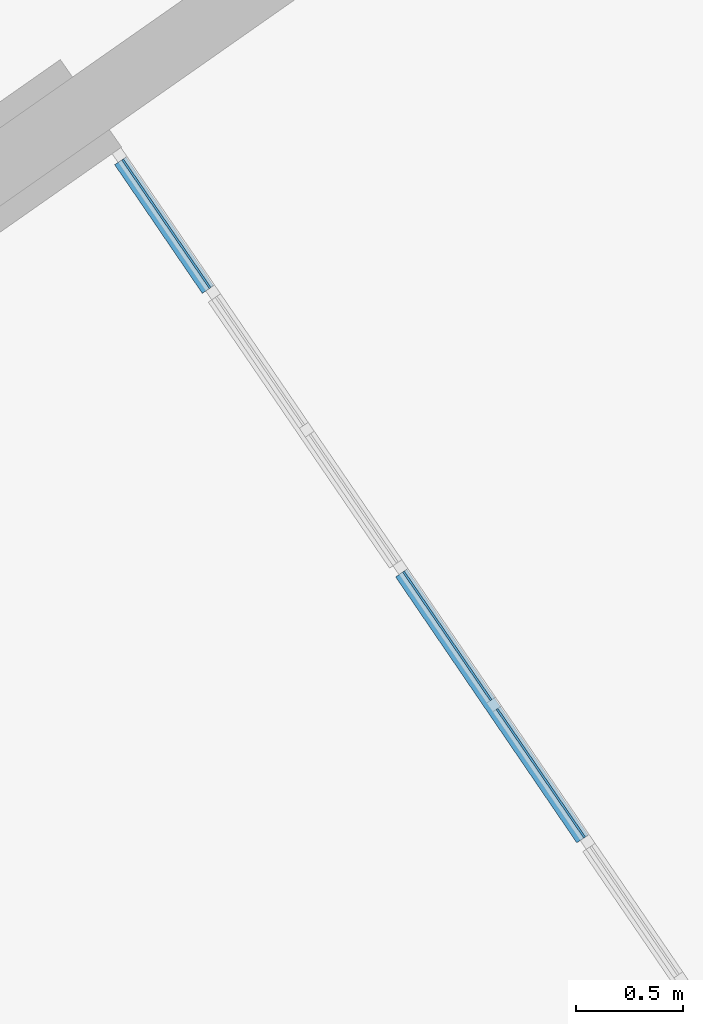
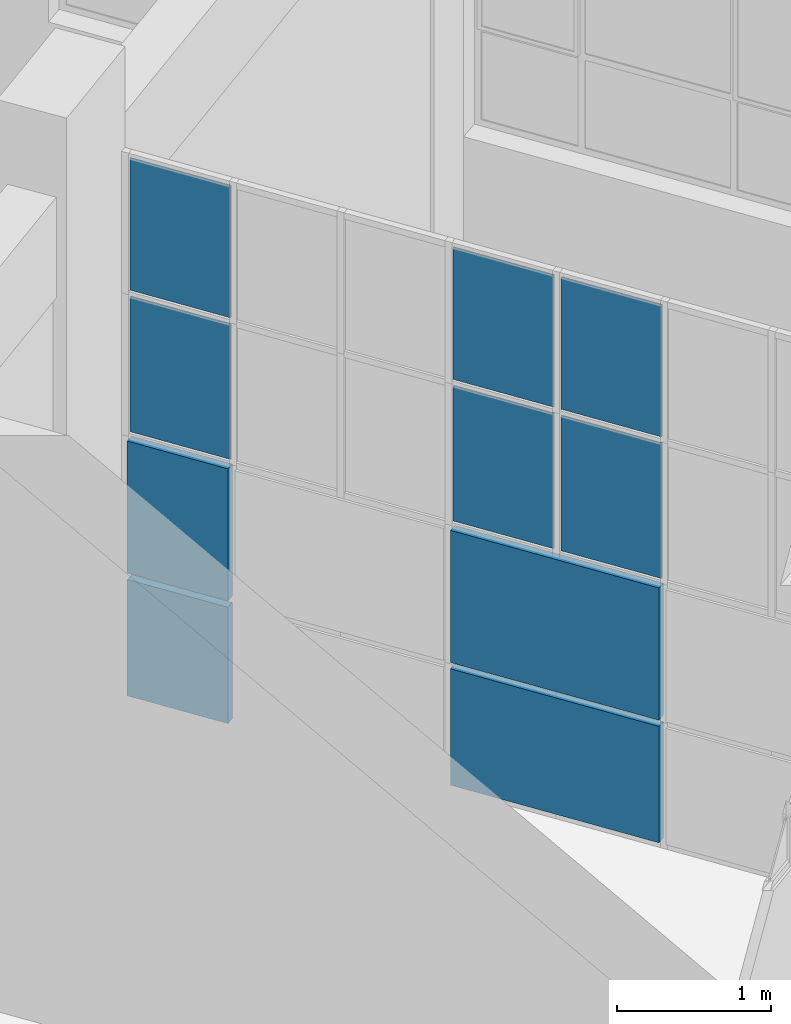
# One storey, part 47 of 157: 10 plates, 1 element without a shape of its own.
"""IFC2X3 building model written with IfcOpenShell, lengths in millimetres."""

import ifcopenshell
import ifcopenshell.guid

model = None  # the IFC model being written
_history = None  # IfcOwnerHistory: only IFC2X3 demands one
_inside = {}  # id of a spatial element -> (the spatial element, [elements in it])
_under = {}  # id of a project, library or spatial element -> (it, [spatial elements below it])
_declared = {}  # id of a project -> (the project, [libraries it declares])
_typed = {}  # id of a type object -> (the type object, [elements of that type])
_made_of = {}  # id of a material, layer set ... -> (it, [elements and type objects made of it])


def new_model(schema):
    """Start an empty IFC model of exactly this schema.

    Asked for "IFC4X3", IfcOpenShell would pick the latest addendum, in which some entities
    have other attributes; the version numbers below select the first issue.
    IFC2X3 requires an IfcOwnerHistory on every rooted entity: one is made here for all.
    """
    global model, _history
    if schema == "IFC4X3":
        model = ifcopenshell.file(schema_version=(4, 3, 0, 0))
    else:
        model = ifcopenshell.file(schema=schema)
    _inside.clear()
    _under.clear()
    _declared.clear()
    _typed.clear()
    _made_of.clear()
    _history = None
    if model.schema == "IFC2X3":
        org = make("IfcOrganization", Name="unknown")
        user = make(
            "IfcPersonAndOrganization",
            ThePerson=make("IfcPerson", FamilyName="unknown"),
            TheOrganization=org,
        )
        app = make(
            "IfcApplication",
            ApplicationDeveloper=org,
            Version="unknown",
            ApplicationFullName="unknown",
            ApplicationIdentifier="unknown",
        )
        _history = make(
            "IfcOwnerHistory",
            OwningUser=user,
            OwningApplication=app,
            ChangeAction="ADDED",
            CreationDate=0,
        )
    return model


def make(cls, **values):
    """One entity of the class cls with the attributes given. An attribute that is None is left unset."""
    return model.create_entity(
        cls, **{name: value for name, value in values.items() if value is not None}
    )


def entity(cls, *values):
    """Any entity or typed value of the class cls, its attributes in the order of the schema. None: left unset."""
    e = model.create_entity(cls)
    for i, value in enumerate(values):
        if value is not None:
            e[i] = value
    return e


def rooted(cls, **values):
    """An entity with a GlobalId (a new one), such as an element, a storey or a relation."""
    return make(cls, GlobalId=ifcopenshell.guid.new(), OwnerHistory=_history, **values)


def si_unit(unit_type, name, prefix=None):
    """IfcSIUnit, for example si_unit("LENGTHUNIT", "METRE", prefix="MILLI")."""
    return make("IfcSIUnit", UnitType=unit_type, Prefix=prefix, Name=name)


def converted_unit(unit_type, name, factor, base, dimensions=None, offset=None):
    """IfcConversionBasedUnit, such as the inch: factor (a typed value) times the base unit."""
    return make(
        "IfcConversionBasedUnit"
        if offset is None
        else "IfcConversionBasedUnitWithOffset",
        ConversionOffset=offset,
        Dimensions=None
        if dimensions is None
        else entity("IfcDimensionalExponents", *dimensions),
        UnitType=unit_type,
        Name=name,
        ConversionFactor=make(
            "IfcMeasureWithUnit", ValueComponent=factor, UnitComponent=base
        ),
    )


def derived_unit(unit_type, elements):
    """IfcDerivedUnit: a product of units, each with its exponent."""
    return make(
        "IfcDerivedUnit",
        Elements=[
            make("IfcDerivedUnitElement", Unit=unit, Exponent=power)
            for unit, power in elements
        ],
        UnitType=unit_type,
    )


def assignment(units):
    """IfcUnitAssignment: the units of a project."""
    return None if units is None else make("IfcUnitAssignment", Units=units)


def point(xyz):
    """IfcCartesianPoint."""
    return None if xyz is None else make("IfcCartesianPoint", Coordinates=xyz)


def direction(xyz):
    """IfcDirection."""
    return None if xyz is None else make("IfcDirection", DirectionRatios=xyz)


def frame(location, z_axis=None, x_axis=None):
    """IfcAxis2Placement3D, a coordinate frame: its origin and axes. An axis left out is left unset."""
    return make(
        "IfcAxis2Placement3D",
        Location=point(location),
        Axis=direction(z_axis),
        RefDirection=direction(x_axis),
    )


def frame_2d(location, x_axis=None):
    """IfcAxis2Placement2D, a coordinate frame in the plane: its origin and x axis."""
    return make(
        "IfcAxis2Placement2D", Location=point(location), RefDirection=direction(x_axis)
    )


def origin():
    """The frame at (0, 0, 0) with its axes left unset."""
    return frame((0.0, 0.0, 0.0))


def place(relative_to, where):
    """IfcLocalPlacement: puts the frame where relative to a parent placement (None: the world)."""
    return make(
        "IfcLocalPlacement", PlacementRelTo=relative_to, RelativePlacement=where
    )


def context(
    kind, dimensions, precision=None, world=None, true_north=None, identifier=None
):
    """IfcGeometricRepresentationContext, for example the 3D "Model" context."""
    return make(
        "IfcGeometricRepresentationContext",
        ContextIdentifier=identifier,
        ContextType=kind,
        CoordinateSpaceDimension=dimensions,
        Precision=precision,
        WorldCoordinateSystem=world,
        TrueNorth=true_north,
    )


def subcontext(parent, identifier, kind, view, scale=None):
    """IfcGeometricRepresentationSubContext, for example "Body" below "Model"."""
    return make(
        "IfcGeometricRepresentationSubContext",
        ContextIdentifier=identifier,
        ContextType=kind,
        ParentContext=parent,
        TargetScale=scale,
        TargetView=view,
    )


def project(units=None, contexts=None):
    """IfcProject with its units and contexts."""
    return rooted(
        "IfcProject",
        Name="project",
        RepresentationContexts=contexts,
        UnitsInContext=assignment(units),
    )


def spatial(cls, under=None, at=None, **own):
    """A site, building, storey or space (cls), placed at a placement, below another one or the project."""
    s = rooted(cls, ObjectPlacement=at, **own)
    if under is not None:
        _under.setdefault(under.id(), (under, []))[1].append(s)
    return s


def profile(cls, at=None, kind="AREA", **sizes):
    """A parametric profile (cls). Its sizes go by their IFC names, for example OverallWidth=200.0."""
    return make(cls, ProfileType=kind, Position=at, **sizes)


def rectangle(**sizes):
    """IfcRectangleProfileDef."""
    return profile("IfcRectangleProfileDef", **sizes)


def extrude(swept, where, along, depth):
    """IfcExtrudedAreaSolid: the profile swept, set in the frame where, extruded along a direction by depth."""
    return make(
        "IfcExtrudedAreaSolid",
        SweptArea=swept,
        Position=where,
        ExtrudedDirection=direction(along),
        Depth=depth,
    )


def shape(context_of_items, identifier, shape_type, items):
    """IfcShapeRepresentation: the items that make up one representation, for example the "Body"."""
    return make(
        "IfcShapeRepresentation",
        ContextOfItems=context_of_items,
        RepresentationIdentifier=identifier,
        RepresentationType=shape_type,
        Items=items,
    )


def source(mapping_origin, context_of_items, identifier, shape_type, items):
    """IfcRepresentationMap: a shape defined once, which mapped items show again and again."""
    return make(
        "IfcRepresentationMap",
        MappingOrigin=mapping_origin,
        MappedRepresentation=shape(context_of_items, identifier, shape_type, items),
    )


def transform(
    local_origin,
    x_axis=None,
    y_axis=None,
    z_axis=None,
    scale=None,
    scale2=None,
    scale3=None,
    uniform=True,
):
    """IfcCartesianTransformationOperator3D, or its non-uniform kind. x_axis, y_axis, z_axis: its Axis1, 2, 3."""
    if uniform:
        return make(
            "IfcCartesianTransformationOperator3D",
            Axis1=direction(x_axis),
            Axis2=direction(y_axis),
            LocalOrigin=point(local_origin),
            Scale=scale,
            Axis3=direction(z_axis),
        )
    return make(
        "IfcCartesianTransformationOperator3DnonUniform",
        Axis1=direction(x_axis),
        Axis2=direction(y_axis),
        LocalOrigin=point(local_origin),
        Scale=scale,
        Axis3=direction(z_axis),
        Scale2=scale2,
        Scale3=scale3,
    )


def mapped(mapping_source, mapping_target):
    """IfcMappedItem: shows the shape of a source again, moved by a transform."""
    return make(
        "IfcMappedItem", MappingSource=mapping_source, MappingTarget=mapping_target
    )


def material(Name=None, Category=None):
    """IfcMaterial."""
    return make("IfcMaterial", Name=Name, Category=Category)


def made_of(thing, what):
    """Note that an element or type object is made of a material, layer set ...; save() writes the relation."""
    if what is not None:
        _made_of.setdefault(what.id(), (what, []))[1].append(thing)
    return thing


def type_object(cls, material=None, **own):
    """A type object (cls), such as IfcWallType, which elements share."""
    return made_of(rooted(cls, **own), material)


def type_shapes(of_type, sources):
    """Give a type object the sources (RepresentationMaps) that its elements show as mapped items."""
    of_type.RepresentationMaps = sources


def element(
    cls,
    number,
    at=None,
    inside=None,
    cuts=None,
    type_object=None,
    material=None,
    context=None,
    identifier="Body",
    shape_type=None,
    held_by="IfcProductDefinitionShape",
    body=None,
    shapes=None,
    **own,
):
    """One element of the class cls, such as IfcWall. Its Tag is "e" and its number.

    at: its placement. inside: the storey or other place that contains it. cuts: it is an
    opening in that element (IfcRelVoidsElement). A single representation is given by context,
    identifier, shape_type and body (its items); several are given by shapes. held_by: the class
    of the entity that holds the representations. save() writes the other relations.
    """
    e = rooted(cls, Tag="e%d" % number, ObjectPlacement=at, **own)
    if body is not None:
        shapes = [shape(context, identifier, shape_type, body)]
    if shapes is not None:
        e.Representation = make(held_by, Representations=shapes)
    if inside is not None:
        _inside.setdefault(inside.id(), (inside, []))[1].append(e)
    if cuts is not None:
        rooted(
            "IfcRelVoidsElement", RelatingBuildingElement=cuts, RelatedOpeningElement=e
        )
    if type_object is not None:
        _typed.setdefault(type_object.id(), (type_object, []))[1].append(e)
    return made_of(e, material)


def aggregate(whole, parts):
    """IfcRelAggregates: a whole, such as a stair, and the parts it consists of."""
    return rooted("IfcRelAggregates", RelatingObject=whole, RelatedObjects=parts)


def save(model, path):
    """Write the relations noted so far, then the file.

    IfcRelAggregates (storeys below a building ...), IfcRelContainedInSpatialStructure (elements
    in a storey), IfcRelDefinesByType, IfcRelAssociatesMaterial and IfcRelDeclares: one each for
    every whole, place, type object, material and project.
    """
    for whole, parts in _under.values():
        aggregate(whole, parts)
    for where, things in _inside.values():
        rooted(
            "IfcRelContainedInSpatialStructure",
            RelatedElements=things,
            RelatingStructure=where,
        )
    for kind, things in _typed.values():
        rooted("IfcRelDefinesByType", RelatedObjects=things, RelatingType=kind)
    for what, things in _made_of.values():
        rooted("IfcRelAssociatesMaterial", RelatedObjects=things, RelatingMaterial=what)
    for by, libraries in _declared.values():
        rooted("IfcRelDeclares", RelatingContext=by, RelatedDefinitions=libraries)
    model.write(path)


model = new_model("IFC2X3")

# Units and contexts
model_context = context("Model", 3, precision=0.01, world=origin(), true_north=direction((6.123031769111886e-17, 1.0)))
body_context = subcontext(model_context, "Body", "Model", "MODEL_VIEW")
ifc_project = project(units=[si_unit("LENGTHUNIT", "METRE", prefix="MILLI"), si_unit("AREAUNIT", "SQUARE_METRE"), si_unit("VOLUMEUNIT", "CUBIC_METRE"), converted_unit("PLANEANGLEUNIT", "DEGREE", entity("IfcRatioMeasure", 0.017453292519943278), si_unit("PLANEANGLEUNIT", "RADIAN"), dimensions=[0, 0, 0, 0, 0, 0, 0]), si_unit("MASSUNIT", "GRAM", prefix="KILO"), derived_unit("MASSDENSITYUNIT", [(si_unit("MASSUNIT", "GRAM", prefix="KILO"), 1), (si_unit("LENGTHUNIT", "METRE"), -3)]), derived_unit("MOMENTOFINERTIAUNIT", [(si_unit("LENGTHUNIT", "METRE"), 4)]), si_unit("TIMEUNIT", "SECOND"), si_unit("FREQUENCYUNIT", "HERTZ"), si_unit("THERMODYNAMICTEMPERATUREUNIT", "DEGREE_CELSIUS"), derived_unit("THERMALTRANSMITTANCEUNIT", [(si_unit("MASSUNIT", "GRAM", prefix="KILO"), 1), (si_unit("THERMODYNAMICTEMPERATUREUNIT", "KELVIN"), -1), (si_unit("TIMEUNIT", "SECOND"), -3)]), derived_unit("THERMALCONDUCTANCEUNIT", [(si_unit("MASSUNIT", "GRAM", prefix="KILO"), 1), (si_unit("LENGTHUNIT", "METRE"), 1), (si_unit("THERMODYNAMICTEMPERATUREUNIT", "KELVIN"), -1), (si_unit("TIMEUNIT", "SECOND"), -3)]), derived_unit("VOLUMETRICFLOWRATEUNIT", [(si_unit("LENGTHUNIT", "METRE"), 3), (si_unit("TIMEUNIT", "SECOND"), -1)]), derived_unit("MASSFLOWRATEUNIT", [(si_unit("MASSUNIT", "GRAM", prefix="KILO"), 1), (si_unit("TIMEUNIT", "SECOND"), -1)]), derived_unit("ROTATIONALFREQUENCYUNIT", [(si_unit("TIMEUNIT", "SECOND"), -1)]), si_unit("ELECTRICCURRENTUNIT", "AMPERE"), si_unit("ELECTRICVOLTAGEUNIT", "VOLT"), si_unit("POWERUNIT", "WATT"), converted_unit("FORCEUNIT", "KIP", entity("IfcRatioMeasure", 2.088543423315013e-05), si_unit("FORCEUNIT", "NEWTON"), dimensions=[1, 1, -2, 0, 0, 0, 0]), si_unit("ILLUMINANCEUNIT", "LUX"), si_unit("LUMINOUSFLUXUNIT", "LUMEN"), si_unit("LUMINOUSINTENSITYUNIT", "CANDELA"), derived_unit("USERDEFINED", [(si_unit("MASSUNIT", "GRAM", prefix="KILO"), -1), (si_unit("LENGTHUNIT", "METRE"), -2), (si_unit("TIMEUNIT", "SECOND"), 3), (si_unit("LUMINOUSFLUXUNIT", "LUMEN"), 1)]), derived_unit("USERDEFINED", [(si_unit("MASSUNIT", "GRAM", prefix="KILO"), 1), (si_unit("LENGTHUNIT", "METRE"), 3), (si_unit("TIMEUNIT", "SECOND"), -3), (si_unit("ELECTRICCURRENTUNIT", "AMPERE"), -2)]), derived_unit("USERDEFINED", [(si_unit("LENGTHUNIT", "METRE"), 2), (si_unit("TIMEUNIT", "SECOND"), -2)]), derived_unit("SOUNDPOWERUNIT", [(si_unit("MASSUNIT", "GRAM", prefix="KILO"), 1), (si_unit("LENGTHUNIT", "METRE"), 2), (si_unit("TIMEUNIT", "SECOND"), -3)]), derived_unit("SOUNDPRESSUREUNIT", [(si_unit("MASSUNIT", "GRAM", prefix="KILO"), 1), (si_unit("LENGTHUNIT", "METRE"), -1), (si_unit("TIMEUNIT", "SECOND"), -2)]), derived_unit("LINEARVELOCITYUNIT", [(si_unit("LENGTHUNIT", "METRE"), 1), (si_unit("TIMEUNIT", "SECOND"), -1)]), si_unit("PRESSUREUNIT", "PASCAL"), derived_unit("USERDEFINED", [(si_unit("LENGTHUNIT", "METRE"), -2), (si_unit("MASSUNIT", "GRAM", prefix="KILO"), 1), (si_unit("TIMEUNIT", "SECOND"), -2)]), derived_unit("LINEARFORCEUNIT", [(si_unit("MASSUNIT", "GRAM", prefix="KILO"), 1), (si_unit("LENGTHUNIT", "METRE"), 1), (si_unit("TIMEUNIT", "SECOND"), -2), (si_unit("LENGTHUNIT", "METRE"), -1)]), derived_unit("PLANARFORCEUNIT", [(si_unit("MASSUNIT", "GRAM", prefix="KILO"), 1), (si_unit("LENGTHUNIT", "METRE"), 1), (si_unit("TIMEUNIT", "SECOND"), -2), (si_unit("LENGTHUNIT", "METRE"), -2)]), derived_unit("SPECIFICHEATCAPACITYUNIT", [(si_unit("LENGTHUNIT", "METRE"), 2), (si_unit("TIMEUNIT", "SECOND"), -2), (si_unit("THERMODYNAMICTEMPERATUREUNIT", "KELVIN"), -1)]), derived_unit("VAPORPERMEABILITYUNIT", [(si_unit("TIMEUNIT", "SECOND"), 1), (si_unit("LENGTHUNIT", "METRE"), -1)]), derived_unit("DYNAMICVISCOSITYUNIT", [(si_unit("MASSUNIT", "GRAM", prefix="KILO"), 1), (si_unit("LENGTHUNIT", "METRE"), -1), (si_unit("TIMEUNIT", "SECOND"), -1)]), derived_unit("THERMALEXPANSIONCOEFFICIENTUNIT", [(si_unit("THERMODYNAMICTEMPERATUREUNIT", "KELVIN"), -1)])], contexts=[model_context])

# Site, building, storey
site_placement = place(None, frame((0.0, 0.0, 0.0), z_axis=(0.0, 0.0, 1.0), x_axis=(0.8191520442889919, 0.5735764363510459, 0.0)))
site = spatial("IfcSite", under=ifc_project, at=site_placement, Name="Default", CompositionType="ELEMENT")
building_placement = place(site_placement, origin())
building = spatial("IfcBuilding", under=site, at=building_placement, CompositionType="ELEMENT")
storey_placement = place(building_placement, origin())
storey = spatial("IfcBuildingStorey", under=building, at=storey_placement, Name="1.EG +0.00", CompositionType="ELEMENT", Elevation=-4.331468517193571e-12)

# Curtain wall, plates
curtain_wall_type = type_object("IfcCurtainWallType", Name="Curtain Wall:Curtain_Wall_CJC_Int5", PredefinedType="NOTDEFINED")
curtain_wall_placement = place(storey_placement, origin())
curtain_wall = element("IfcCurtainWall", 1, at=curtain_wall_placement, inside=storey, type_object=curtain_wall_type, Name="Curtain Wall:Curtain_Wall_CJC_Int5", ObjectType="Curtain Wall:Curtain_Wall_CJC_Int5")
ifc_material_1 = material(Name="Default")
plate_type_1 = type_object("IfcPlateType", Name="System Panel:Solid", PredefinedType="CURTAIN_PANEL", material=ifc_material_1)
shared_shape_1 = source(origin(), body_context, "Body", "SweptSolid", [
    extrude(rectangle(XDim=925.0000000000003, YDim=1507.2679333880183, at=frame_2d((0.0, -5.0799769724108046e-08), x_axis=(1.0, 0.0))), frame((5.078863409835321e-08, -19.049999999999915, 462.50000000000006), z_axis=(0.0, 1.0, 0.0), x_axis=(0.0, 0.0, 1.0)), (0.0, 0.0, 1.0), 63.5),
])
type_shapes(plate_type_1, [shared_shape_1])
plate_1_placement = place(curtain_wall_placement, frame((-210078.5315675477, 148607.07291586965, 50.0), z_axis=(0.0, 0.0, 1.0), x_axis=(0.012616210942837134, 0.9999204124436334, 0.0)))
plate_1 = element("IfcPlate", 2, at=plate_1_placement, type_object=plate_type_1, material=ifc_material_1, Name="System Panel:Solid", ObjectType="System Panel:Solid", context=body_context, shape_type="MappedRepresentation", body=[
    mapped(shared_shape_1, transform((0.0, 0.0, 0.0), scale=1.0)),
])
plate_type_2 = type_object("IfcPlateType", Name="System Panel:Solid", PredefinedType="CURTAIN_PANEL", material=ifc_material_1)
shared_shape_2 = source(origin(), body_context, "Body", "SweptSolid", [
    extrude(rectangle(XDim=63.5, YDim=728.6339668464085, at=frame_2d((0.0, 6.821210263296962e-13), x_axis=(1.0, 0.0))), frame((0.0, 12.700000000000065, 0.0), z_axis=(0.0, 0.0, 1.0), x_axis=(0.0, 1.0, 0.0)), (0.0, 0.0, 1.0), 925.0000000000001),
])
type_shapes(plate_type_2, [shared_shape_2])
plate_2_placement = place(curtain_wall_placement, frame((-210044.14963125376, 151332.07490540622, 50.0), z_axis=(0.0, 0.0, 1.0), x_axis=(0.012616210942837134, 0.9999204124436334, 0.0)))
plate_2 = element("IfcPlate", 3, at=plate_2_placement, type_object=plate_type_2, material=ifc_material_1, Name="System Panel:Solid", ObjectType="System Panel:Solid", context=body_context, shape_type="MappedRepresentation", body=[
    mapped(shared_shape_2, transform((0.0, 0.0, 0.0), scale=1.0)),
])
plate_type_3 = type_object("IfcPlateType", Name="System Panel:Solid", PredefinedType="CURTAIN_PANEL", material=ifc_material_1)
shared_shape_3 = source(origin(), body_context, "Body", "SweptSolid", [
    extrude(rectangle(XDim=1049.9999999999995, YDim=1507.2679333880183, at=frame_2d((1.1368683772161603e-13, -5.0799769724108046e-08), x_axis=(1.0, 0.0))), frame((5.078863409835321e-08, -19.049999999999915, 525.0), z_axis=(0.0, 1.0, 0.0), x_axis=(0.0, 0.0, 1.0)), (0.0, 0.0, 1.0), 63.5),
])
type_shapes(plate_type_3, [shared_shape_3])
plate_3_placement = place(curtain_wall_placement, frame((-210078.5315675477, 148607.07291586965, 1025.0), z_axis=(0.0, 0.0, 1.0), x_axis=(0.012616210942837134, 0.9999204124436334, 0.0)))
plate_3 = element("IfcPlate", 4, at=plate_3_placement, type_object=plate_type_3, material=ifc_material_1, Name="System Panel:Solid", ObjectType="System Panel:Solid", context=body_context, shape_type="MappedRepresentation", body=[
    mapped(shared_shape_3, transform((0.0, 0.0, 0.0), scale=1.0)),
])
plate_type_4 = type_object("IfcPlateType", Name="System Panel:Solid", PredefinedType="CURTAIN_PANEL", material=ifc_material_1)
shared_shape_4 = source(origin(), body_context, "Body", "SweptSolid", [
    extrude(rectangle(XDim=63.5, YDim=728.6339668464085, at=frame_2d((0.0, 6.821210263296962e-13), x_axis=(1.0, 0.0))), frame((0.0, 12.700000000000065, 0.0), z_axis=(0.0, 0.0, 1.0), x_axis=(0.0, 1.0, 0.0)), (0.0, 0.0, 1.0), 1050.0),
])
type_shapes(plate_type_4, [shared_shape_4])
plate_4_placement = place(curtain_wall_placement, frame((-210044.14963125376, 151332.07490540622, 1025.0), z_axis=(0.0, 0.0, 1.0), x_axis=(0.012616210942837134, 0.9999204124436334, 0.0)))
plate_4 = element("IfcPlate", 5, at=plate_4_placement, type_object=plate_type_4, material=ifc_material_1, Name="System Panel:Solid", ObjectType="System Panel:Solid", context=body_context, shape_type="MappedRepresentation", body=[
    mapped(shared_shape_4, transform((0.0, 0.0, 0.0), scale=1.0)),
])
ifc_material_2 = material(Name="Glass")
plate_type_5 = type_object("IfcPlateType", Name="System Panel:Glazed_CJC", PredefinedType="CURTAIN_PANEL", material=ifc_material_2)
shared_shape_5 = source(origin(), body_context, "Body", "SweptSolid", [
    extrude(rectangle(XDim=10.0, YDim=728.6339668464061, at=frame_2d((0.0, 1.7905676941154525e-12), x_axis=(1.0, 0.0))), frame((0.0, 0.0, 0.0), z_axis=(0.0, 0.0, 1.0), x_axis=(0.0, 1.0, 0.0)), (0.0, 0.0, 1.0), 1075.0000000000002),
])
type_shapes(plate_type_5, [shared_shape_5])
plate_5_placement = place(curtain_wall_placement, frame((-210083.44327273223, 148217.78691738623, 2125.0), z_axis=(0.0, 0.0, 1.0), x_axis=(0.012616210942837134, 0.9999204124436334, 0.0)))
plate_5 = element("IfcPlate", 6, at=plate_5_placement, type_object=plate_type_5, material=ifc_material_2, Name="System Panel:Glazed_CJC", ObjectType="System Panel:Glazed_CJC", context=body_context, shape_type="MappedRepresentation", body=[
    mapped(shared_shape_5, transform((0.0, 0.0, 0.0), scale=1.0)),
])
plate_6_placement = place(curtain_wall_placement, frame((-210073.61986236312, 148996.3589143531, 2125.0), z_axis=(0.0, 0.0, 1.0), x_axis=(0.012616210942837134, 0.9999204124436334, 0.0)))
plate_6 = element("IfcPlate", 7, at=plate_6_placement, type_object=plate_type_5, material=ifc_material_2, Name="System Panel:Glazed_CJC", ObjectType="System Panel:Glazed_CJC", context=body_context, shape_type="MappedRepresentation", body=[
    mapped(shared_shape_5, transform((0.0, 0.0, 0.0), scale=1.0)),
])
plate_7_placement = place(curtain_wall_placement, frame((-210044.14963125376, 151332.07490540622, 2125.0), z_axis=(0.0, 0.0, 1.0), x_axis=(0.012616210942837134, 0.9999204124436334, 0.0)))
plate_7 = element("IfcPlate", 8, at=plate_7_placement, type_object=plate_type_5, material=ifc_material_2, Name="System Panel:Glazed_CJC", ObjectType="System Panel:Glazed_CJC", context=body_context, shape_type="MappedRepresentation", body=[
    mapped(shared_shape_5, transform((0.0, 0.0, 0.0), scale=1.0)),
])
plate_type_6 = type_object("IfcPlateType", Name="System Panel:Glazed_CJC", PredefinedType="CURTAIN_PANEL", material=ifc_material_2)
shared_shape_6 = source(origin(), body_context, "Body", "SweptSolid", [
    extrude(rectangle(XDim=10.0, YDim=728.6339668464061, at=frame_2d((0.0, 1.7905676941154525e-12), x_axis=(1.0, 0.0))), frame((0.0, 0.0, 0.0), z_axis=(0.0, 0.0, 1.0), x_axis=(0.0, 1.0, 0.0)), (0.0, 0.0, 1.0), 1050.0000000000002),
])
type_shapes(plate_type_6, [shared_shape_6])
plate_8_placement = place(curtain_wall_placement, frame((-210083.44327273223, 148217.78691738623, 3250.0), z_axis=(0.0, 0.0, 1.0), x_axis=(0.012616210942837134, 0.9999204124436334, 0.0)))
plate_8 = element("IfcPlate", 9, at=plate_8_placement, type_object=plate_type_6, material=ifc_material_2, Name="System Panel:Glazed_CJC", ObjectType="System Panel:Glazed_CJC", context=body_context, shape_type="MappedRepresentation", body=[
    mapped(shared_shape_6, transform((0.0, 0.0, 0.0), scale=1.0)),
])
plate_9_placement = place(curtain_wall_placement, frame((-210073.61986236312, 148996.3589143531, 3250.0), z_axis=(0.0, 0.0, 1.0), x_axis=(0.012616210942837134, 0.9999204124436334, 0.0)))
plate_9 = element("IfcPlate", 10, at=plate_9_placement, type_object=plate_type_6, material=ifc_material_2, Name="System Panel:Glazed_CJC", ObjectType="System Panel:Glazed_CJC", context=body_context, shape_type="MappedRepresentation", body=[
    mapped(shared_shape_6, transform((0.0, 0.0, 0.0), scale=1.0)),
])
plate_10_placement = place(curtain_wall_placement, frame((-210044.14963125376, 151332.07490540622, 3250.0), z_axis=(0.0, 0.0, 1.0), x_axis=(0.012616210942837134, 0.9999204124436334, 0.0)))
plate_10 = element("IfcPlate", 11, at=plate_10_placement, type_object=plate_type_6, material=ifc_material_2, Name="System Panel:Glazed_CJC", ObjectType="System Panel:Glazed_CJC", context=body_context, shape_type="MappedRepresentation", body=[
    mapped(shared_shape_6, transform((0.0, 0.0, 0.0), scale=1.0)),
])
aggregate(curtain_wall, [plate_1, plate_2, plate_3, plate_4, plate_5, plate_6, plate_7, plate_8, plate_9, plate_10])

save(model, "model.ifc")
